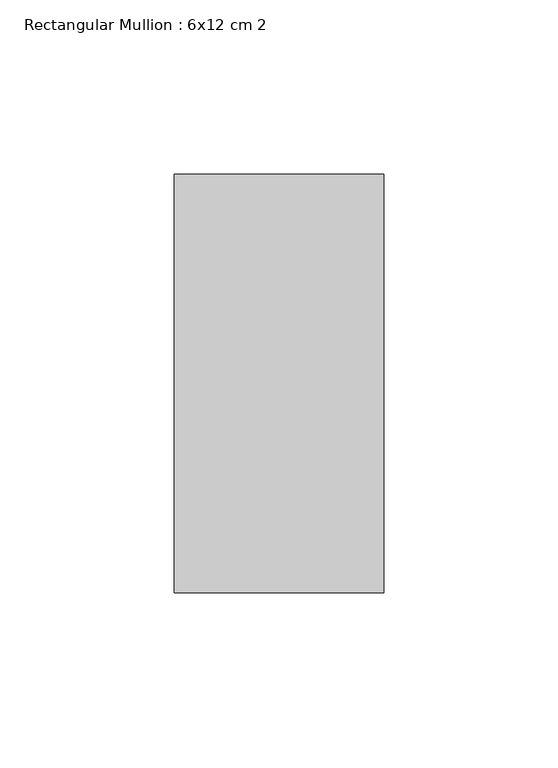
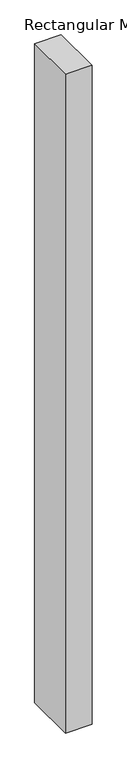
"""IFC4 building model written with IfcOpenShell, lengths in millimetres: member geometry, Rectangular Mullion : 6x12 cm 2."""

from ifc_helpers import new_model, si_unit, frame, origin, place, context, project, spatial, polyline, outline, extrude, source, transform, mapped, element, save


def rectangular_mullion_6x12_cm_2_3a03e7fe(model_context):
    return source(origin(), model_context, "Body", "SweptSolid", [
        extrude(outline(polyline([(0.0, 205.0), (0.0, 85.0), (-60.0, 85.0), (-60.0, 205.0), (0.0, 205.0)])), frame((0.0, 0.0, -1573.4364418), z_axis=(0.0, 0.0, 1.0), x_axis=(1.0, 0.0, 0.0)), (0.0, 0.0, 1.0), 1573.4364418),
    ])


if __name__ == "__main__":
    model = new_model("IFC4")
    model_context = context("Model", 3, world=origin())
    ifc_project = project(units=[si_unit("LENGTHUNIT", "METRE", prefix="MILLI")], contexts=[model_context])
    site = spatial("IfcSite", under=ifc_project)
    building = spatial("IfcBuilding", under=site)
    placement = place(None, origin())
    rectangular_mullion_6x12_cm_2_shape = rectangular_mullion_6x12_cm_2_3a03e7fe(model_context)
    element("IfcMember", 1, ObjectType="Rectangular Mullion : 6x12 cm 2", at=placement, inside=building, context=model_context, shape_type="MappedRepresentation", body=[
        mapped(rectangular_mullion_6x12_cm_2_shape, transform((0.0, 0.0, 0.0), x_axis=(1.0, 0.0, 0.0), y_axis=(0.0, 1.0, 0.0), z_axis=(0.0, 0.0, 1.0))),
    ])
    save(model, "model.ifc")
